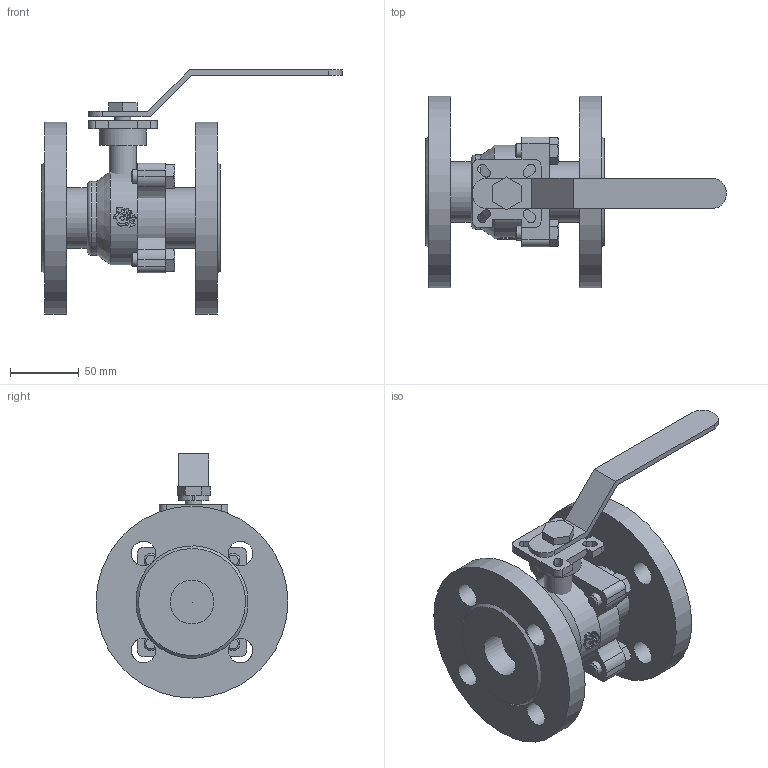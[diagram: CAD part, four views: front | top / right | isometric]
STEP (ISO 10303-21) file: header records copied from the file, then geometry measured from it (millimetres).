
FILE_DESCRIPTION(('STEP AP203'), '1');
FILE_NAME('3D_7528-032-40', '', ('UNSPECIFIED'), ('UNSPECIFIED'), 'C3D Converter', 'C3D Toolkit', '');
FILE_SCHEMA(('CONFIG_CONTROL_DESIGN'));
Length unit declared in the file: millimetre
Bounding box: 219 x 140 x 178 mm (x, y, z)
Volume: 906905.1 mm3; surface area: 163872.3 mm2
Topology: 23 solids, 23 shells, 1001 faces, 2889 edges, 1933 vertices
Faces by surface type: plane 922, cylinder 62, cone 12, torus 5
Full cylindrical faces by diameter (mm): 10 x4, 12 x1, 18 x8, 20 x1, 32 x2, 34 x1, 44 x2, 54 x1, 68 x2, 140 x2
Entity records: 41599 total; most frequent: CARTESIAN_POINT 9308, ORIENTED_EDGE 5694, DIRECTION 4211, EDGE_CURVE 2847, VERTEX_POINT 1932, LINE 1837, VECTOR 1837, AXIS2_PLACEMENT_3D 1187
